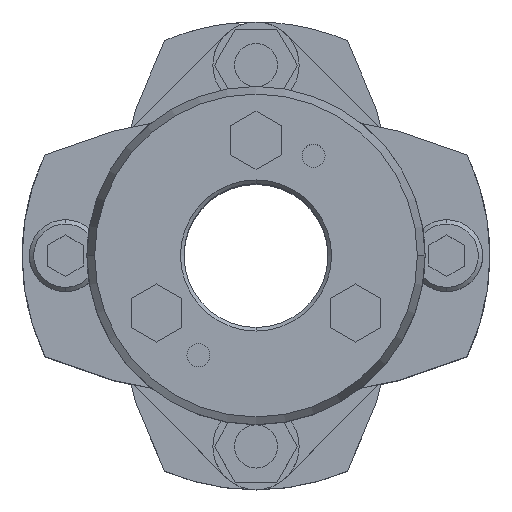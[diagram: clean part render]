
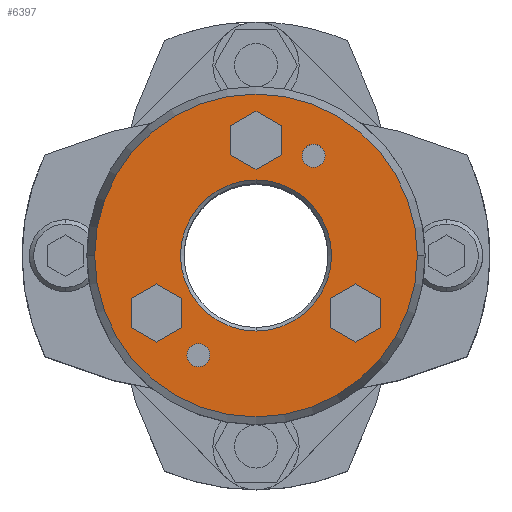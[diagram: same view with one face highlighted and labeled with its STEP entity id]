
A CAD part, top view. The second image highlights one B-rep face of the part: STEP entity #6397.
In plain terms, the highlighted planar face has unit normal (0, 0, 1).
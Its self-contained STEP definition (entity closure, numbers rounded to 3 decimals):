
#1593=CARTESIAN_POINT('',(-22.428,0.,40.0));
#1594=VERTEX_POINT('',#1593);
#1603=CARTESIAN_POINT('',(22.428,0.,40.0));
#1604=VERTEX_POINT('',#1603);
#1605=CARTESIAN_POINT('',(0.,0.,40.0));
#1606=DIRECTION('',(0.0,0.0,-1.0));
#1607=DIRECTION('',(-1.0,0.0,0.0));
#1608=AXIS2_PLACEMENT_3D('',#1605,#1606,#1607);
#1609=CIRCLE('',#1608,22.428);
#1610=EDGE_CURVE('',#1594,#1604,#1609,.T.);
#1637=CARTESIAN_POINT('',(0.,10.5,40.0));
#1638=VERTEX_POINT('',#1637);
#1654=CARTESIAN_POINT('',(0.,-10.5,40.0));
#1655=VERTEX_POINT('',#1654);
#1662=CARTESIAN_POINT('',(0.,0.,40.0));
#1663=DIRECTION('',(0.0,0.0,1.0));
#1664=DIRECTION('',(0.0,1.0,0.0));
#1665=AXIS2_PLACEMENT_3D('',#1662,#1663,#1664);
#1666=CIRCLE('',#1665,10.5);
#1667=EDGE_CURVE('',#1655,#1638,#1666,.T.);
#2075=CARTESIAN_POINT('',(8.,15.456,40.0));
#2076=VERTEX_POINT('',#2075);
#2092=CARTESIAN_POINT('',(8.,12.256,40.0));
#2093=VERTEX_POINT('',#2092);
#2100=CARTESIAN_POINT('',(8.,13.856,40.0));
#2101=DIRECTION('',(0.0,0.0,-1.0));
#2102=DIRECTION('',(0.0,1.0,0.0));
#2103=AXIS2_PLACEMENT_3D('',#2100,#2101,#2102);
#2104=CIRCLE('',#2103,1.6);
#2105=EDGE_CURVE('',#2076,#2093,#2104,.T.);
#2117=CARTESIAN_POINT('',(-8.,-12.256,40.0));
#2118=VERTEX_POINT('',#2117);
#2134=CARTESIAN_POINT('',(-8.,-15.456,40.0));
#2135=VERTEX_POINT('',#2134);
#2142=CARTESIAN_POINT('',(-8.,-13.856,40.0));
#2143=DIRECTION('',(0.0,0.0,-1.0));
#2144=DIRECTION('',(0.0,1.0,0.0));
#2145=AXIS2_PLACEMENT_3D('',#2142,#2143,#2144);
#2146=CIRCLE('',#2145,1.6);
#2147=EDGE_CURVE('',#2118,#2135,#2146,.T.);
#4759=CARTESIAN_POINT('',(0.,20.041,40.0));
#4760=VERTEX_POINT('',#4759);
#4767=CARTESIAN_POINT('',(-3.5,18.021,40.0));
#4768=VERTEX_POINT('',#4767);
#4769=CARTESIAN_POINT('',(-3.5,18.021,40.0));
#4770=DIRECTION('',(0.866,0.5,0.0));
#4771=VECTOR('',#4770,4.041);
#4772=LINE('',#4769,#4771);
#4773=EDGE_CURVE('',#4768,#4760,#4772,.T.);
#4797=CARTESIAN_POINT('',(3.5,18.021,40.0));
#4798=VERTEX_POINT('',#4797);
#4805=CARTESIAN_POINT('',(0.,20.041,40.0));
#4806=DIRECTION('',(0.866,-0.5,0.0));
#4807=VECTOR('',#4806,4.041);
#4808=LINE('',#4805,#4807);
#4809=EDGE_CURVE('',#4760,#4798,#4808,.T.);
#4828=CARTESIAN_POINT('',(3.5,13.979,40.0));
#4829=VERTEX_POINT('',#4828);
#4836=CARTESIAN_POINT('',(3.5,18.021,40.0));
#4837=DIRECTION('',(0.0,-1.0,0.0));
#4838=VECTOR('',#4837,4.041);
#4839=LINE('',#4836,#4838);
#4840=EDGE_CURVE('',#4798,#4829,#4839,.T.);
#4859=CARTESIAN_POINT('',(0.,11.959,40.0));
#4860=VERTEX_POINT('',#4859);
#4867=CARTESIAN_POINT('',(3.5,13.979,40.0));
#4868=DIRECTION('',(-0.866,-0.5,0.0));
#4869=VECTOR('',#4868,4.041);
#4870=LINE('',#4867,#4869);
#4871=EDGE_CURVE('',#4829,#4860,#4870,.T.);
#4890=CARTESIAN_POINT('',(-3.5,13.979,40.0));
#4891=VERTEX_POINT('',#4890);
#4898=CARTESIAN_POINT('',(0.,11.959,40.0));
#4899=DIRECTION('',(-0.866,0.5,0.0));
#4900=VECTOR('',#4899,4.041);
#4901=LINE('',#4898,#4900);
#4902=EDGE_CURVE('',#4860,#4891,#4901,.T.);
#4920=CARTESIAN_POINT('',(-3.5,13.979,40.0));
#4921=DIRECTION('',(0.0,1.0,0.0));
#4922=VECTOR('',#4921,4.041);
#4923=LINE('',#4920,#4922);
#4924=EDGE_CURVE('',#4891,#4768,#4923,.T.);
#4959=CARTESIAN_POINT('',(13.856,-3.959,40.0));
#4960=VERTEX_POINT('',#4959);
#4967=CARTESIAN_POINT('',(10.356,-5.979,40.0));
#4968=VERTEX_POINT('',#4967);
#4969=CARTESIAN_POINT('',(10.356,-5.979,40.0));
#4970=DIRECTION('',(0.866,0.5,0.0));
#4971=VECTOR('',#4970,4.041);
#4972=LINE('',#4969,#4971);
#4973=EDGE_CURVE('',#4968,#4960,#4972,.T.);
#4997=CARTESIAN_POINT('',(17.356,-5.979,40.0));
#4998=VERTEX_POINT('',#4997);
#5005=CARTESIAN_POINT('',(13.856,-3.959,40.0));
#5006=DIRECTION('',(0.866,-0.5,0.0));
#5007=VECTOR('',#5006,4.041);
#5008=LINE('',#5005,#5007);
#5009=EDGE_CURVE('',#4960,#4998,#5008,.T.);
#5028=CARTESIAN_POINT('',(17.356,-10.021,40.0));
#5029=VERTEX_POINT('',#5028);
#5036=CARTESIAN_POINT('',(17.356,-5.979,40.0));
#5037=DIRECTION('',(0.0,-1.0,0.0));
#5038=VECTOR('',#5037,4.041);
#5039=LINE('',#5036,#5038);
#5040=EDGE_CURVE('',#4998,#5029,#5039,.T.);
#5059=CARTESIAN_POINT('',(13.856,-12.041,40.0));
#5060=VERTEX_POINT('',#5059);
#5067=CARTESIAN_POINT('',(17.356,-10.021,40.0));
#5068=DIRECTION('',(-0.866,-0.5,0.0));
#5069=VECTOR('',#5068,4.041);
#5070=LINE('',#5067,#5069);
#5071=EDGE_CURVE('',#5029,#5060,#5070,.T.);
#5090=CARTESIAN_POINT('',(10.356,-10.021,40.0));
#5091=VERTEX_POINT('',#5090);
#5098=CARTESIAN_POINT('',(13.856,-12.041,40.0));
#5099=DIRECTION('',(-0.866,0.5,0.0));
#5100=VECTOR('',#5099,4.041);
#5101=LINE('',#5098,#5100);
#5102=EDGE_CURVE('',#5060,#5091,#5101,.T.);
#5120=CARTESIAN_POINT('',(10.356,-10.021,40.0));
#5121=DIRECTION('',(0.0,1.0,0.0));
#5122=VECTOR('',#5121,4.041);
#5123=LINE('',#5120,#5122);
#5124=EDGE_CURVE('',#5091,#4968,#5123,.T.);
#5159=CARTESIAN_POINT('',(-13.856,-3.959,40.0));
#5160=VERTEX_POINT('',#5159);
#5167=CARTESIAN_POINT('',(-17.356,-5.979,40.0));
#5168=VERTEX_POINT('',#5167);
#5169=CARTESIAN_POINT('',(-17.356,-5.979,40.0));
#5170=DIRECTION('',(0.866,0.5,0.0));
#5171=VECTOR('',#5170,4.041);
#5172=LINE('',#5169,#5171);
#5173=EDGE_CURVE('',#5168,#5160,#5172,.T.);
#5197=CARTESIAN_POINT('',(-10.356,-5.979,40.0));
#5198=VERTEX_POINT('',#5197);
#5205=CARTESIAN_POINT('',(-13.856,-3.959,40.0));
#5206=DIRECTION('',(0.866,-0.5,0.0));
#5207=VECTOR('',#5206,4.041);
#5208=LINE('',#5205,#5207);
#5209=EDGE_CURVE('',#5160,#5198,#5208,.T.);
#5228=CARTESIAN_POINT('',(-10.356,-10.021,40.0));
#5229=VERTEX_POINT('',#5228);
#5236=CARTESIAN_POINT('',(-10.356,-5.979,40.0));
#5237=DIRECTION('',(0.0,-1.0,0.0));
#5238=VECTOR('',#5237,4.041);
#5239=LINE('',#5236,#5238);
#5240=EDGE_CURVE('',#5198,#5229,#5239,.T.);
#5259=CARTESIAN_POINT('',(-13.856,-12.041,40.0));
#5260=VERTEX_POINT('',#5259);
#5267=CARTESIAN_POINT('',(-10.356,-10.021,40.0));
#5268=DIRECTION('',(-0.866,-0.5,0.0));
#5269=VECTOR('',#5268,4.041);
#5270=LINE('',#5267,#5269);
#5271=EDGE_CURVE('',#5229,#5260,#5270,.T.);
#5290=CARTESIAN_POINT('',(-17.356,-10.021,40.0));
#5291=VERTEX_POINT('',#5290);
#5298=CARTESIAN_POINT('',(-13.856,-12.041,40.0));
#5299=DIRECTION('',(-0.866,0.5,0.0));
#5300=VECTOR('',#5299,4.041);
#5301=LINE('',#5298,#5300);
#5302=EDGE_CURVE('',#5260,#5291,#5301,.T.);
#5320=CARTESIAN_POINT('',(-17.356,-10.021,40.0));
#5321=DIRECTION('',(0.0,1.0,0.0));
#5322=VECTOR('',#5321,4.041);
#5323=LINE('',#5320,#5322);
#5324=EDGE_CURVE('',#5291,#5168,#5323,.T.);
#5350=CARTESIAN_POINT('',(-8.,-13.856,40.0));
#5351=DIRECTION('',(0.0,0.0,-1.0));
#5352=DIRECTION('',(0.0,1.0,0.0));
#5353=AXIS2_PLACEMENT_3D('',#5350,#5351,#5352);
#5354=CIRCLE('',#5353,1.6);
#5355=EDGE_CURVE('',#2135,#2118,#5354,.T.);
#5384=CARTESIAN_POINT('',(8.,13.856,40.0));
#5385=DIRECTION('',(0.0,0.0,-1.0));
#5386=DIRECTION('',(0.0,1.0,0.0));
#5387=AXIS2_PLACEMENT_3D('',#5384,#5385,#5386);
#5388=CIRCLE('',#5387,1.6);
#5389=EDGE_CURVE('',#2093,#2076,#5388,.T.);
#6334=CARTESIAN_POINT('',(0.,0.,40.0));
#6335=DIRECTION('',(0.0,0.0,1.0));
#6336=DIRECTION('',(0.0,1.0,0.0));
#6337=AXIS2_PLACEMENT_3D('',#6334,#6335,#6336);
#6338=CIRCLE('',#6337,10.5);
#6339=EDGE_CURVE('',#1638,#1655,#6338,.T.);
#6346=CARTESIAN_POINT('',(-9.964,0.,40.0));
#6347=DIRECTION('',(0.0,0.0,1.0));
#6348=DIRECTION('',(0.0,1.0,0.0));
#6349=AXIS2_PLACEMENT_3D('',#6346,#6347,#6348);
#6350=PLANE('',#6349);
#6351=ORIENTED_EDGE('',*,*,#1610,.F.);
#6352=CARTESIAN_POINT('',(0.,0.,40.0));
#6353=DIRECTION('',(0.0,0.0,-1.0));
#6354=DIRECTION('',(-1.0,0.0,0.0));
#6355=AXIS2_PLACEMENT_3D('',#6352,#6353,#6354);
#6356=CIRCLE('',#6355,22.428);
#6357=EDGE_CURVE('',#1604,#1594,#6356,.T.);
#6358=ORIENTED_EDGE('',*,*,#6357,.F.);
#6359=EDGE_LOOP('',(#6351,#6358));
#6360=FACE_OUTER_BOUND('',#6359,.T.);
#6361=ORIENTED_EDGE('',*,*,#4773,.T.);
#6362=ORIENTED_EDGE('',*,*,#4809,.T.);
#6363=ORIENTED_EDGE('',*,*,#4840,.T.);
#6364=ORIENTED_EDGE('',*,*,#4871,.T.);
#6365=ORIENTED_EDGE('',*,*,#4902,.T.);
#6366=ORIENTED_EDGE('',*,*,#4924,.T.);
#6367=EDGE_LOOP('',(#6361,#6362,#6363,#6364,#6365,#6366));
#6368=FACE_BOUND('',#6367,.T.);
#6369=ORIENTED_EDGE('',*,*,#4973,.T.);
#6370=ORIENTED_EDGE('',*,*,#5009,.T.);
#6371=ORIENTED_EDGE('',*,*,#5040,.T.);
#6372=ORIENTED_EDGE('',*,*,#5071,.T.);
#6373=ORIENTED_EDGE('',*,*,#5102,.T.);
#6374=ORIENTED_EDGE('',*,*,#5124,.T.);
#6375=EDGE_LOOP('',(#6369,#6370,#6371,#6372,#6373,#6374));
#6376=FACE_BOUND('',#6375,.T.);
#6377=ORIENTED_EDGE('',*,*,#5173,.T.);
#6378=ORIENTED_EDGE('',*,*,#5209,.T.);
#6379=ORIENTED_EDGE('',*,*,#5240,.T.);
#6380=ORIENTED_EDGE('',*,*,#5271,.T.);
#6381=ORIENTED_EDGE('',*,*,#5302,.T.);
#6382=ORIENTED_EDGE('',*,*,#5324,.T.);
#6383=EDGE_LOOP('',(#6377,#6378,#6379,#6380,#6381,#6382));
#6384=FACE_BOUND('',#6383,.T.);
#6385=ORIENTED_EDGE('',*,*,#2147,.T.);
#6386=ORIENTED_EDGE('',*,*,#5355,.T.);
#6387=EDGE_LOOP('',(#6385,#6386));
#6388=FACE_BOUND('',#6387,.T.);
#6389=ORIENTED_EDGE('',*,*,#2105,.T.);
#6390=ORIENTED_EDGE('',*,*,#5389,.T.);
#6391=EDGE_LOOP('',(#6389,#6390));
#6392=FACE_BOUND('',#6391,.T.);
#6393=ORIENTED_EDGE('',*,*,#1667,.F.);
#6394=ORIENTED_EDGE('',*,*,#6339,.F.);
#6395=EDGE_LOOP('',(#6393,#6394));
#6396=FACE_BOUND('',#6395,.T.);
#6397=ADVANCED_FACE('',(#6360,#6368,#6376,#6384,#6388,#6392,#6396),#6350,.T.);
